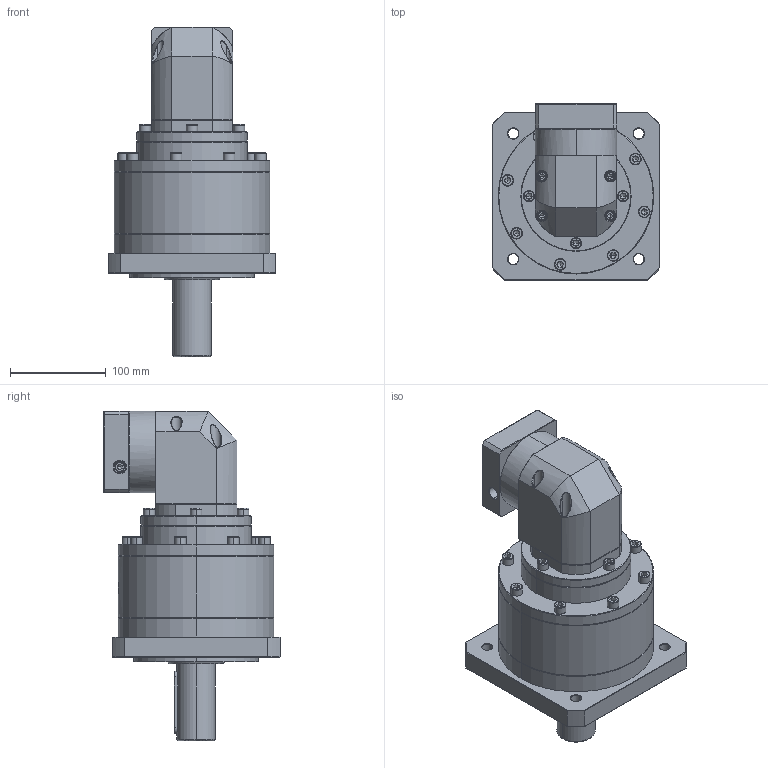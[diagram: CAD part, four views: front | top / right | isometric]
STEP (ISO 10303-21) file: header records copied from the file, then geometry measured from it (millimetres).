
FILE_DESCRIPTION (( 'STEP AP214' ), '1' );
FILE_NAME ('ZFR160A-D40-L3-P2-19-80-100-M6.step', '2023-09-03T10:05:34', ( '' ), ( '' ), 'SwSTEP 2.0', 'SolidWorks 2016', '' );
FILE_SCHEMA (( 'AUTOMOTIVE_DESIGN' ));
Length unit declared in the file: millimetre
Products named in the file (1): ZFR160A-D40-L3-P2-19-80-100-M6
Bounding box: 175 x 183.6 x 343.2 mm (x, y, z)
Volume: 3987240.8 mm3; surface area: 271418.5 mm2
Topology: 6 solids, 6 shells, 2606 faces, 6785 edges, 4309 vertices
Faces by surface type: plane 1238, cylinder 520, bspline 421, cone 367, torus 60
Entity records: 138935 total; most frequent: CARTESIAN_POINT 51814, ORIENTED_EDGE 13430, DIRECTION 10402, EDGE_CURVE 6715, VERTEX_POINT 4309, LINE 3616, VECTOR 3616, AXIS2_PLACEMENT_3D 3393
